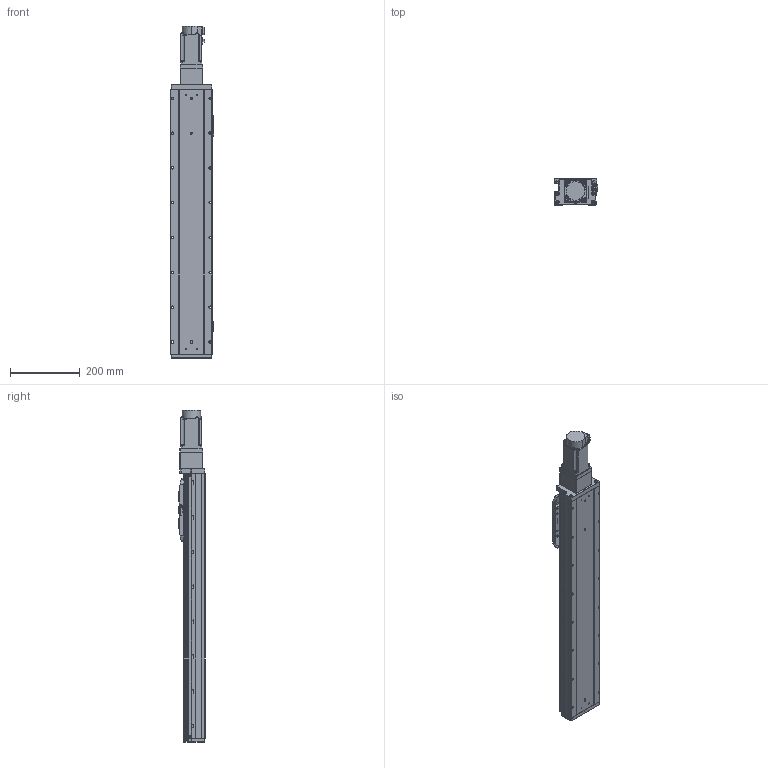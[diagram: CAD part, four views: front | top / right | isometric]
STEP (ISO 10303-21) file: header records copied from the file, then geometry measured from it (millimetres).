
FILE_DESCRIPTION (( 'STEP AP203' ), '1' );
FILE_NAME ('GTH12-550-BC-M40-C4.step', '2022-09-23T01:15:07', ( '微软用户' ), ( '微软中国' ), 'SwSTEP 2.0', 'SolidWorks 2020', '' );
FILE_SCHEMA (( 'CONFIG_CONTROL_DESIGN' ));
Length unit declared in the file: millimetre
Products named in the file (19): GTH120-013; GTH50-024; GTH12-550-BC-M40-C4; GBT 70.1-M3℅6; GBT96.1-2002 3×0.8; GBT 70.1-M5×16; BTH-M3X5X6; GTH120-001_550; GBT 70.3-M3℅8; CTHA86-006-1_CTHA86-006-2; GTH120-003; GTH80-022; CTHA86-013; GTH120-006; GTH80-028; CTHA86-027; GTH120-004; GTH50-023; hg-kn43j_-s100_
Assembly tree (62 placements, depth 2):
  GTH12-550-BC-M40-C4
    GTH120-001_550
    GTH120-003
    GTH120-006
    GTH120-004
    GTH120-013
    GBT 70.1-M3℅6  x14
    GBT 70.1-M5×16  x10
    GBT 70.3-M3℅8  x6
    GTH80-022
    GTH80-028  x2
    GTH50-023  x3
    GTH50-024  x3
    GBT96.1-2002 3×0.8  x6
    BTH-M3X5X6  x8
    CTHA86-006-1_CTHA86-006-2
    CTHA86-013
    CTHA86-027
    hg-kn43j_-s100_
Bounding box: 125.7 x 76 x 953.7 mm (x, y, z)
Volume: 6030513.2 mm3; surface area: 571480.5 mm2
Topology: 64 solids, 64 shells, 2441 faces, 5652 edges, 3443 vertices
Faces by surface type: plane 1248, cylinder 688, cone 327, torus 170, sphere 8
Entity records: 43577 total; most frequent: DIRECTION 7274, CARTESIAN_POINT 6984, ORIENTED_EDGE 6686, EDGE_CURVE 3343, AXIS2_PLACEMENT_3D 2542, LINE 2190, VECTOR 2190, VERTEX_POINT 2102
